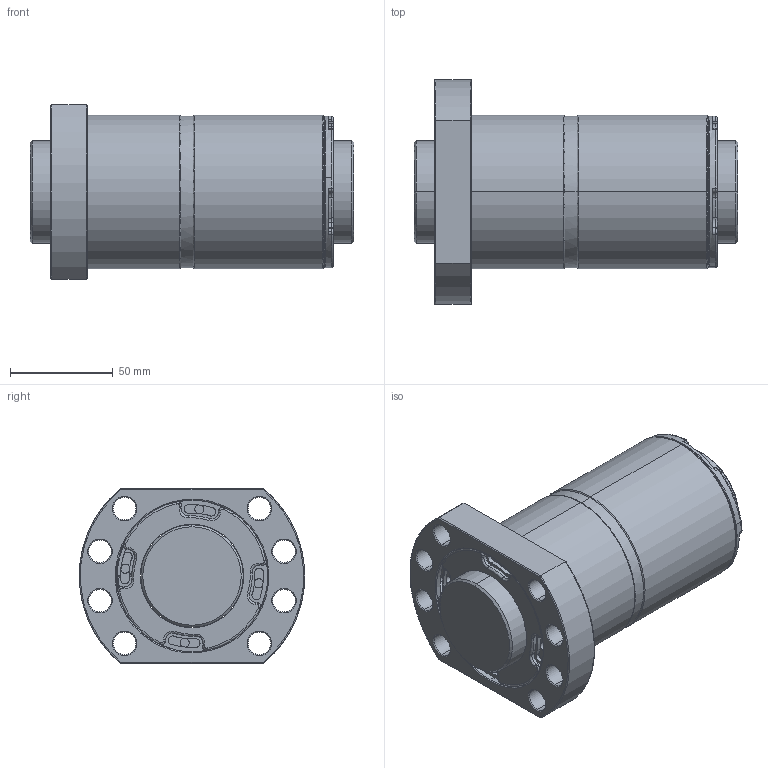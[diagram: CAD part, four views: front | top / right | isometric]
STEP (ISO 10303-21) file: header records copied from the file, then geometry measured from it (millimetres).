
FILE_DESCRIPTION (( 'STEP AP203' ), '1' );
FILE_NAME ('DFSR05010C1D-C.STEP', '2020-06-17T02:45:50', ( '' ), ( '' ), 'SwSTEP 2.0', 'SolidWorks 2013', '' );
FILE_SCHEMA (( 'CONFIG_CONTROL_DESIGN' ));
Length unit declared in the file: millimetre
Products named in the file (1): DFSR05010C1D-C
Bounding box: 158 x 109.87 x 85 mm (x, y, z)
Volume: 680882.8 mm3; surface area: 105029.7 mm2
Topology: 2 solids, 3 shells, 375 faces, 899 edges, 546 vertices
Faces by surface type: cylinder 173, plane 85, bspline 76, cone 41
Entity records: 15103 total; most frequent: CARTESIAN_POINT 6385, DIRECTION 1918, ORIENTED_EDGE 1798, EDGE_CURVE 899, AXIS2_PLACEMENT_3D 819, VERTEX_POINT 546, CIRCLE 519, EDGE_LOOP 413
